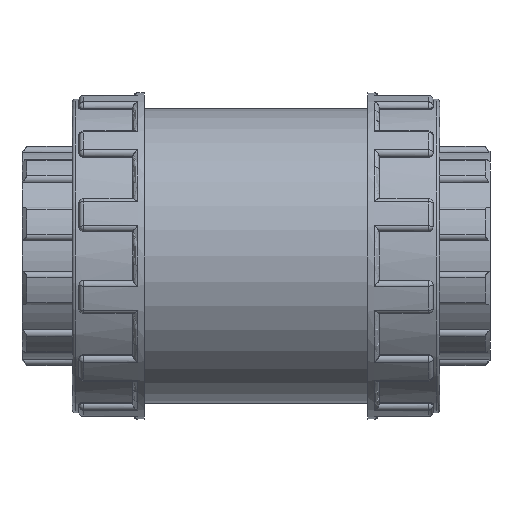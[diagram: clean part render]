
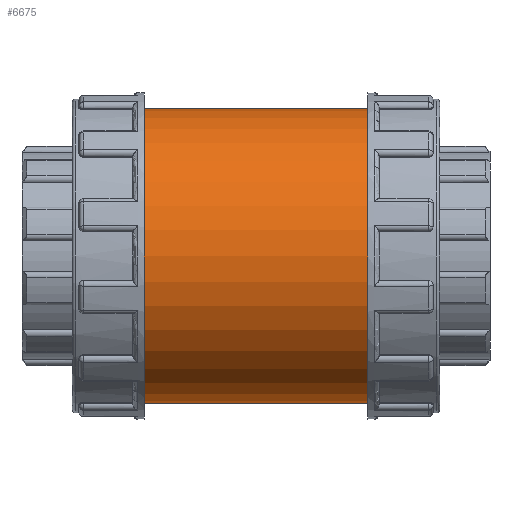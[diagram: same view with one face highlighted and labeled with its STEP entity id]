
A CAD part, front view. The second image highlights one B-rep face of the part: STEP entity #6675.
In plain terms, the highlighted cylindrical face has radius 53.1 mm (diameter 106.2 mm), a full revolution.
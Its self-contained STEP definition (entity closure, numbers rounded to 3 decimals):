
#185=FACE_BOUND('',#1099,.T.);
#186=FACE_BOUND('',#1100,.T.);
#670=FACE_OUTER_BOUND('',#1098,.T.);
#1098=EDGE_LOOP('',(#6073));
#1099=EDGE_LOOP('',(#6074));
#1100=EDGE_LOOP('',(#6075));
#1149=B_SPLINE_CURVE_WITH_KNOTS('',3,(#10735,#10736,#10737,#10738,#10739,
#10740,#10741,#10742,#10743,#10744,#10745,#10746,#10747,#10748,#10749,#10750,
#10751,#10752,#10753,#10754,#10755,#10756,#10757,#10758,#10759,#10760,#10761,
#10762,#10763,#10764,#10765,#10766,#10767,#10768,#10769,#10770,#10771,#10772,
#10773,#10774,#10775,#10776,#10777,#10778,#10779,#10780,#10781,#10782,#10783,
#10784,#10785,#10786,#10787,#10788,#10789,#10790,#10791,#10792,#10793,#10794,
#10795,#10796,#10797,#10798,#10799,#10800),.UNSPECIFIED.,.T.,.F.,(4,2,2,
2,2,2,2,2,2,2,2,2,2,2,2,2,2,2,2,2,2,2,2,2,2,2,2,2,2,2,2,2,4),(0.,0.336,
0.672,1.009,1.345,1.681,2.017,
2.353,2.689,3.025,3.362,3.698,
4.034,4.37,4.706,5.042,5.379,
5.715,6.051,6.387,6.724,7.06,
7.396,7.732,8.068,8.404,8.74,
9.076,9.412,9.749,10.085,10.421,
10.757),.UNSPECIFIED.);
#2472=CIRCLE('',#7578,53.1);
#2473=CIRCLE('',#7580,53.1);
#2638=VERTEX_POINT('',#10734);
#3083=VERTEX_POINT('',#13385);
#3084=VERTEX_POINT('',#13388);
#3349=EDGE_CURVE('',#2638,#2638,#1149,.T.);
#4082=EDGE_CURVE('',#3083,#3083,#2472,.T.);
#4083=EDGE_CURVE('',#3084,#3084,#2473,.T.);
#6073=ORIENTED_EDGE('',*,*,#4082,.T.);
#6074=ORIENTED_EDGE('',*,*,#3349,.T.);
#6075=ORIENTED_EDGE('',*,*,#4083,.F.);
#6267=CYLINDRICAL_SURFACE('',#7579,53.1);
#6675=ADVANCED_FACE('',(#670,#185,#186),#6267,.T.);
#7578=AXIS2_PLACEMENT_3D('',#13386,#9749,#9750);
#7579=AXIS2_PLACEMENT_3D('',#13387,#9751,#9752);
#7580=AXIS2_PLACEMENT_3D('',#13389,#9753,#9754);
#9749=DIRECTION('center_axis',(1.,0.,0.));
#9750=DIRECTION('ref_axis',(0.,0.,-1.));
#9751=DIRECTION('center_axis',(1.,0.,0.));
#9752=DIRECTION('ref_axis',(0.,1.,0.));
#9753=DIRECTION('center_axis',(1.,0.,0.));
#9754=DIRECTION('ref_axis',(0.,0.,-1.));
#10734=CARTESIAN_POINT('',(0.,50.063,-17.7));
#10735=CARTESIAN_POINT('Ctrl Pts',(0.,50.063,
-17.7));
#10736=CARTESIAN_POINT('Ctrl Pts',(1.121,50.063,-17.7));
#10737=CARTESIAN_POINT('Ctrl Pts',(2.277,50.102,-17.592));
#10738=CARTESIAN_POINT('Ctrl Pts',(4.571,50.258,-17.14));
#10739=CARTESIAN_POINT('Ctrl Pts',(5.709,50.376,-16.796));
#10740=CARTESIAN_POINT('Ctrl Pts',(7.886,50.669,-15.89));
#10741=CARTESIAN_POINT('Ctrl Pts',(8.928,50.844,-15.327));
#10742=CARTESIAN_POINT('Ctrl Pts',(10.852,51.217,-14.031));
#10743=CARTESIAN_POINT('Ctrl Pts',(11.735,51.414,-13.297));
#10744=CARTESIAN_POINT('Ctrl Pts',(13.297,51.793,-11.735));
#10745=CARTESIAN_POINT('Ctrl Pts',(14.031,51.988,-10.853));
#10746=CARTESIAN_POINT('Ctrl Pts',(15.327,52.353,-8.928));
#10747=CARTESIAN_POINT('Ctrl Pts',(15.89,52.523,-7.886));
#10748=CARTESIAN_POINT('Ctrl Pts',(16.796,52.804,-5.708));
#10749=CARTESIAN_POINT('Ctrl Pts',(17.14,52.915,-4.57));
#10750=CARTESIAN_POINT('Ctrl Pts',(17.592,53.064,-2.276));
#10751=CARTESIAN_POINT('Ctrl Pts',(17.7,53.1,-1.12));
#10752=CARTESIAN_POINT('Ctrl Pts',(17.7,53.1,1.12));
#10753=CARTESIAN_POINT('Ctrl Pts',(17.592,53.064,2.276));
#10754=CARTESIAN_POINT('Ctrl Pts',(17.14,52.915,4.57));
#10755=CARTESIAN_POINT('Ctrl Pts',(16.796,52.804,5.708));
#10756=CARTESIAN_POINT('Ctrl Pts',(15.89,52.523,7.886));
#10757=CARTESIAN_POINT('Ctrl Pts',(15.327,52.353,8.928));
#10758=CARTESIAN_POINT('Ctrl Pts',(14.031,51.988,10.853));
#10759=CARTESIAN_POINT('Ctrl Pts',(13.297,51.793,11.735));
#10760=CARTESIAN_POINT('Ctrl Pts',(11.735,51.414,13.297));
#10761=CARTESIAN_POINT('Ctrl Pts',(10.852,51.217,14.031));
#10762=CARTESIAN_POINT('Ctrl Pts',(8.928,50.844,15.327));
#10763=CARTESIAN_POINT('Ctrl Pts',(7.886,50.669,15.89));
#10764=CARTESIAN_POINT('Ctrl Pts',(5.709,50.376,16.796));
#10765=CARTESIAN_POINT('Ctrl Pts',(4.571,50.258,17.14));
#10766=CARTESIAN_POINT('Ctrl Pts',(2.277,50.102,17.592));
#10767=CARTESIAN_POINT('Ctrl Pts',(1.121,50.063,17.7));
#10768=CARTESIAN_POINT('Ctrl Pts',(-1.121,50.063,17.7));
#10769=CARTESIAN_POINT('Ctrl Pts',(-2.277,50.102,17.592));
#10770=CARTESIAN_POINT('Ctrl Pts',(-4.571,50.258,17.14));
#10771=CARTESIAN_POINT('Ctrl Pts',(-5.709,50.376,16.796));
#10772=CARTESIAN_POINT('Ctrl Pts',(-7.886,50.669,15.89));
#10773=CARTESIAN_POINT('Ctrl Pts',(-8.928,50.844,15.327));
#10774=CARTESIAN_POINT('Ctrl Pts',(-10.852,51.217,14.031));
#10775=CARTESIAN_POINT('Ctrl Pts',(-11.735,51.414,13.297));
#10776=CARTESIAN_POINT('Ctrl Pts',(-13.297,51.793,11.735));
#10777=CARTESIAN_POINT('Ctrl Pts',(-14.031,51.988,10.853));
#10778=CARTESIAN_POINT('Ctrl Pts',(-15.327,52.353,8.928));
#10779=CARTESIAN_POINT('Ctrl Pts',(-15.89,52.523,7.886));
#10780=CARTESIAN_POINT('Ctrl Pts',(-16.796,52.804,5.708));
#10781=CARTESIAN_POINT('Ctrl Pts',(-17.14,52.915,4.57));
#10782=CARTESIAN_POINT('Ctrl Pts',(-17.592,53.064,2.276));
#10783=CARTESIAN_POINT('Ctrl Pts',(-17.7,53.1,1.12));
#10784=CARTESIAN_POINT('Ctrl Pts',(-17.7,53.1,-1.12));
#10785=CARTESIAN_POINT('Ctrl Pts',(-17.592,53.064,-2.276));
#10786=CARTESIAN_POINT('Ctrl Pts',(-17.14,52.915,-4.57));
#10787=CARTESIAN_POINT('Ctrl Pts',(-16.796,52.804,-5.708));
#10788=CARTESIAN_POINT('Ctrl Pts',(-15.89,52.523,-7.886));
#10789=CARTESIAN_POINT('Ctrl Pts',(-15.327,52.353,-8.928));
#10790=CARTESIAN_POINT('Ctrl Pts',(-14.031,51.988,-10.853));
#10791=CARTESIAN_POINT('Ctrl Pts',(-13.297,51.793,-11.735));
#10792=CARTESIAN_POINT('Ctrl Pts',(-11.735,51.414,-13.297));
#10793=CARTESIAN_POINT('Ctrl Pts',(-10.852,51.217,-14.031));
#10794=CARTESIAN_POINT('Ctrl Pts',(-8.928,50.844,-15.327));
#10795=CARTESIAN_POINT('Ctrl Pts',(-7.886,50.669,-15.89));
#10796=CARTESIAN_POINT('Ctrl Pts',(-5.709,50.376,-16.796));
#10797=CARTESIAN_POINT('Ctrl Pts',(-4.571,50.258,-17.14));
#10798=CARTESIAN_POINT('Ctrl Pts',(-2.277,50.102,-17.592));
#10799=CARTESIAN_POINT('Ctrl Pts',(-1.121,50.063,-17.7));
#10800=CARTESIAN_POINT('Ctrl Pts',(0.,50.063,
-17.7));
#13385=CARTESIAN_POINT('',(-40.3,53.1,0.));
#13386=CARTESIAN_POINT('Origin',(-40.3,0.,0.));
#13387=CARTESIAN_POINT('Origin',(0.,0.,0.));
#13388=CARTESIAN_POINT('',(40.3,53.1,0.));
#13389=CARTESIAN_POINT('Origin',(40.3,0.,0.));
